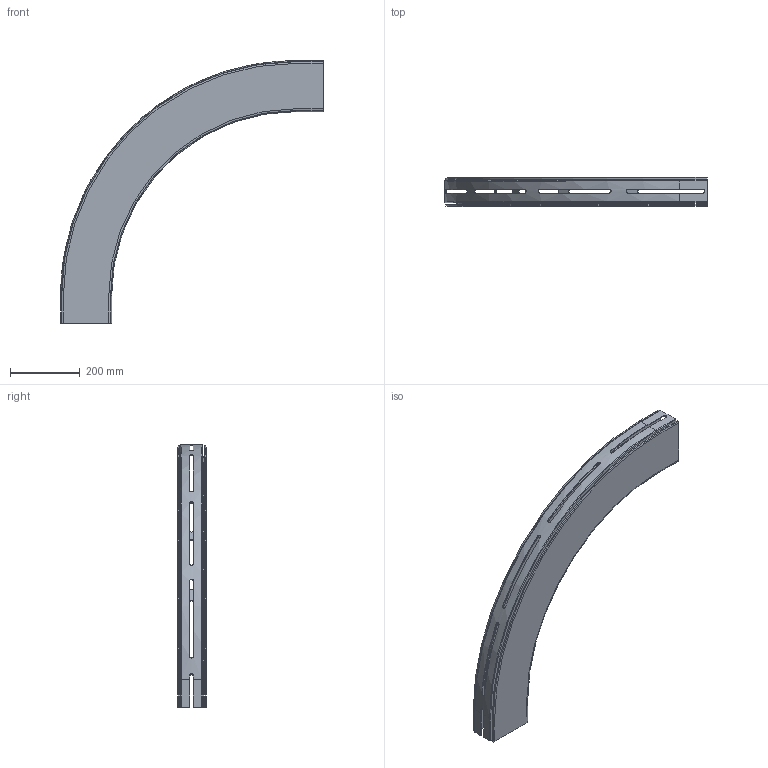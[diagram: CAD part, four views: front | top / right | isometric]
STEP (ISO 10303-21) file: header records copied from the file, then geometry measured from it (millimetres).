
FILE_DESCRIPTION(/* description */ ('GLIDKURVA SERIE 540'),/* implementation_level */ '2;1');
FILE_NAME(/* name */ '540-5375+140-2000-01.stp',/* time_stamp */ '2022-09-21T09:45:52+02:00',/* author */ ('Mathias.Dore'),/* organization */ ('CARRYLINE'),/* preprocessor_version */ 'ST-DEVELOPER v19.2',/* originating_system */ 'Autodesk Inventor 2023',/* authorisation */ '');
FILE_SCHEMA (('AUTOMOTIVE_DESIGN { 1 0 10303 214 3 1 1 }'));
Length unit declared in the file: millimetre
Products named in the file (1): 540-5375+140-2000-01
Bounding box: 753 x 82 x 753 mm (x, y, z)
Volume: 2489032.8 mm3; surface area: 1280187.4 mm2
Topology: 2 solids, 2 shells, 187 faces, 530 edges, 348 vertices
Faces by surface type: plane 119, cylinder 30, bspline 30, cone 4, torus 4
Entity records: 7053 total; most frequent: CARTESIAN_POINT 2172, ORIENTED_EDGE 1060, DIRECTION 894, EDGE_CURVE 530, LINE 362, VECTOR 362, VERTEX_POINT 348, AXIS2_PLACEMENT_3D 266
